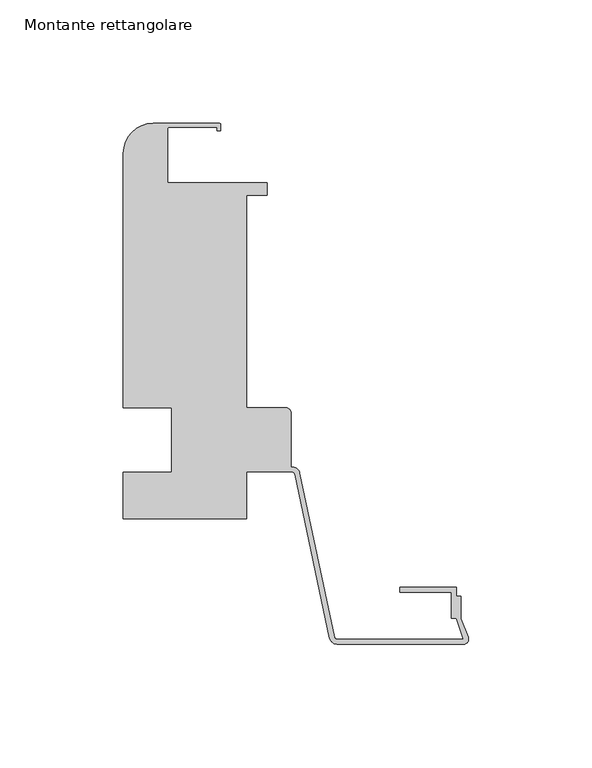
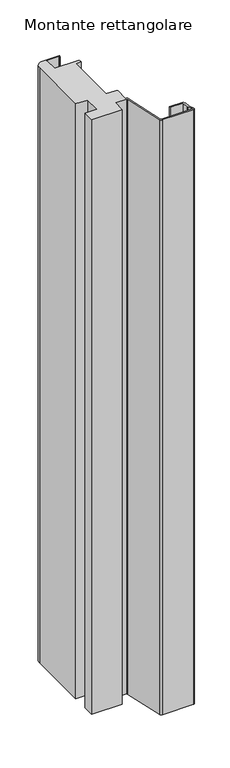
"""IFC4 building model written with IfcOpenShell, lengths in millimetres: member geometry, Montante rettangolare : Aluk_SL50_Attacco base."""

import ifcopenshell
import ifcopenshell.guid

model = None  # the IFC model being written
_history = None  # IfcOwnerHistory: only IFC2X3 demands one
_inside = {}  # id of a spatial element -> (the spatial element, [elements in it])
_under = {}  # id of a project, library or spatial element -> (it, [spatial elements below it])
_declared = {}  # id of a project -> (the project, [libraries it declares])
_typed = {}  # id of a type object -> (the type object, [elements of that type])
_made_of = {}  # id of a material, layer set ... -> (it, [elements and type objects made of it])


def new_model(schema):
    """Start an empty IFC model of exactly this schema.

    Asked for "IFC4X3", IfcOpenShell would pick the latest addendum, in which some entities
    have other attributes; the version numbers below select the first issue.
    IFC2X3 requires an IfcOwnerHistory on every rooted entity: one is made here for all.
    """
    global model, _history
    if schema == "IFC4X3":
        model = ifcopenshell.file(schema_version=(4, 3, 0, 0))
    else:
        model = ifcopenshell.file(schema=schema)
    _inside.clear()
    _under.clear()
    _declared.clear()
    _typed.clear()
    _made_of.clear()
    _history = None
    if model.schema == "IFC2X3":
        org = make("IfcOrganization", Name="unknown")
        user = make(
            "IfcPersonAndOrganization",
            ThePerson=make("IfcPerson", FamilyName="unknown"),
            TheOrganization=org,
        )
        app = make(
            "IfcApplication",
            ApplicationDeveloper=org,
            Version="unknown",
            ApplicationFullName="unknown",
            ApplicationIdentifier="unknown",
        )
        _history = make(
            "IfcOwnerHistory",
            OwningUser=user,
            OwningApplication=app,
            ChangeAction="ADDED",
            CreationDate=0,
        )
    return model


def make(cls, **values):
    """One entity of the class cls with the attributes given. An attribute that is None is left unset."""
    return model.create_entity(
        cls, **{name: value for name, value in values.items() if value is not None}
    )


def rooted(cls, **values):
    """An entity with a GlobalId (a new one), such as an element, a storey or a relation."""
    return make(cls, GlobalId=ifcopenshell.guid.new(), OwnerHistory=_history, **values)


def si_unit(unit_type, name, prefix=None):
    """IfcSIUnit, for example si_unit("LENGTHUNIT", "METRE", prefix="MILLI")."""
    return make("IfcSIUnit", UnitType=unit_type, Prefix=prefix, Name=name)


def assignment(units):
    """IfcUnitAssignment: the units of a project."""
    return None if units is None else make("IfcUnitAssignment", Units=units)


def point(xyz):
    """IfcCartesianPoint."""
    return None if xyz is None else make("IfcCartesianPoint", Coordinates=xyz)


def direction(xyz):
    """IfcDirection."""
    return None if xyz is None else make("IfcDirection", DirectionRatios=xyz)


def frame(location, z_axis=None, x_axis=None):
    """IfcAxis2Placement3D, a coordinate frame: its origin and axes. An axis left out is left unset."""
    return make(
        "IfcAxis2Placement3D",
        Location=point(location),
        Axis=direction(z_axis),
        RefDirection=direction(x_axis),
    )


def frame_2d(location, x_axis=None):
    """IfcAxis2Placement2D, a coordinate frame in the plane: its origin and x axis."""
    return make(
        "IfcAxis2Placement2D", Location=point(location), RefDirection=direction(x_axis)
    )


def origin():
    """The frame at (0, 0, 0) with its axes left unset."""
    return frame((0.0, 0.0, 0.0))


def place(relative_to, where):
    """IfcLocalPlacement: puts the frame where relative to a parent placement (None: the world)."""
    return make(
        "IfcLocalPlacement", PlacementRelTo=relative_to, RelativePlacement=where
    )


def context(
    kind, dimensions, precision=None, world=None, true_north=None, identifier=None
):
    """IfcGeometricRepresentationContext, for example the 3D "Model" context."""
    return make(
        "IfcGeometricRepresentationContext",
        ContextIdentifier=identifier,
        ContextType=kind,
        CoordinateSpaceDimension=dimensions,
        Precision=precision,
        WorldCoordinateSystem=world,
        TrueNorth=true_north,
    )


def project(units=None, contexts=None):
    """IfcProject with its units and contexts."""
    return rooted(
        "IfcProject",
        Name="project",
        RepresentationContexts=contexts,
        UnitsInContext=assignment(units),
    )


def spatial(cls, under=None, at=None, **own):
    """A site, building, storey or space (cls), placed at a placement, below another one or the project."""
    s = rooted(cls, ObjectPlacement=at, **own)
    if under is not None:
        _under.setdefault(under.id(), (under, []))[1].append(s)
    return s


def polyline(points):
    """IfcPolyline through the points."""
    return make("IfcPolyline", Points=[point(p) for p in points])


def circle_curve(where, radius):
    """IfcCircle in the frame where."""
    return make("IfcCircle", Position=where, Radius=radius)


def trimmed(basis, trim1, trim2, sense, master):
    """IfcTrimmedCurve: the piece of a basis curve between two trims."""
    return make(
        "IfcTrimmedCurve",
        BasisCurve=basis,
        Trim1=trim1,
        Trim2=trim2,
        SenseAgreement=sense,
        MasterRepresentation=master,
    )


def segment(curve, same_sense, transition):
    """IfcCompositeCurveSegment."""
    return make(
        "IfcCompositeCurveSegment",
        Transition=transition,
        SameSense=same_sense,
        ParentCurve=curve,
    )


def composite_curve(segments, self_intersect=None):
    """IfcCompositeCurve: segments joined end to end."""
    return make("IfcCompositeCurve", Segments=segments, SelfIntersect=self_intersect)


def outline(outer, holes=None, kind="AREA"):
    """IfcArbitraryClosedProfileDef: a profile drawn as a closed curve; with holes, ...WithVoids."""
    if holes is None:
        return make("IfcArbitraryClosedProfileDef", ProfileType=kind, OuterCurve=outer)
    return make(
        "IfcArbitraryProfileDefWithVoids",
        ProfileType=kind,
        OuterCurve=outer,
        InnerCurves=holes,
    )


def extrude(swept, where, along, depth):
    """IfcExtrudedAreaSolid: the profile swept, set in the frame where, extruded along a direction by depth."""
    return make(
        "IfcExtrudedAreaSolid",
        SweptArea=swept,
        Position=where,
        ExtrudedDirection=direction(along),
        Depth=depth,
    )


def shape(context_of_items, identifier, shape_type, items):
    """IfcShapeRepresentation: the items that make up one representation, for example the "Body"."""
    return make(
        "IfcShapeRepresentation",
        ContextOfItems=context_of_items,
        RepresentationIdentifier=identifier,
        RepresentationType=shape_type,
        Items=items,
    )


def source(mapping_origin, context_of_items, identifier, shape_type, items):
    """IfcRepresentationMap: a shape defined once, which mapped items show again and again."""
    return make(
        "IfcRepresentationMap",
        MappingOrigin=mapping_origin,
        MappedRepresentation=shape(context_of_items, identifier, shape_type, items),
    )


def transform(
    local_origin,
    x_axis=None,
    y_axis=None,
    z_axis=None,
    scale=None,
    scale2=None,
    scale3=None,
    uniform=True,
):
    """IfcCartesianTransformationOperator3D, or its non-uniform kind. x_axis, y_axis, z_axis: its Axis1, 2, 3."""
    if uniform:
        return make(
            "IfcCartesianTransformationOperator3D",
            Axis1=direction(x_axis),
            Axis2=direction(y_axis),
            LocalOrigin=point(local_origin),
            Scale=scale,
            Axis3=direction(z_axis),
        )
    return make(
        "IfcCartesianTransformationOperator3DnonUniform",
        Axis1=direction(x_axis),
        Axis2=direction(y_axis),
        LocalOrigin=point(local_origin),
        Scale=scale,
        Axis3=direction(z_axis),
        Scale2=scale2,
        Scale3=scale3,
    )


def mapped(mapping_source, mapping_target):
    """IfcMappedItem: shows the shape of a source again, moved by a transform."""
    return make(
        "IfcMappedItem", MappingSource=mapping_source, MappingTarget=mapping_target
    )


def made_of(thing, what):
    """Note that an element or type object is made of a material, layer set ...; save() writes the relation."""
    if what is not None:
        _made_of.setdefault(what.id(), (what, []))[1].append(thing)
    return thing


def element(
    cls,
    number,
    at=None,
    inside=None,
    cuts=None,
    type_object=None,
    material=None,
    context=None,
    identifier="Body",
    shape_type=None,
    held_by="IfcProductDefinitionShape",
    body=None,
    shapes=None,
    **own,
):
    """One element of the class cls, such as IfcWall. Its Tag is "e" and its number.

    at: its placement. inside: the storey or other place that contains it. cuts: it is an
    opening in that element (IfcRelVoidsElement). A single representation is given by context,
    identifier, shape_type and body (its items); several are given by shapes. held_by: the class
    of the entity that holds the representations. save() writes the other relations.
    """
    e = rooted(cls, Tag="e%d" % number, ObjectPlacement=at, **own)
    if body is not None:
        shapes = [shape(context, identifier, shape_type, body)]
    if shapes is not None:
        e.Representation = make(held_by, Representations=shapes)
    if inside is not None:
        _inside.setdefault(inside.id(), (inside, []))[1].append(e)
    if cuts is not None:
        rooted(
            "IfcRelVoidsElement", RelatingBuildingElement=cuts, RelatedOpeningElement=e
        )
    if type_object is not None:
        _typed.setdefault(type_object.id(), (type_object, []))[1].append(e)
    return made_of(e, material)


def aggregate(whole, parts):
    """IfcRelAggregates: a whole, such as a stair, and the parts it consists of."""
    return rooted("IfcRelAggregates", RelatingObject=whole, RelatedObjects=parts)


def save(model, path):
    """Write the relations noted so far, then the file.

    IfcRelAggregates (storeys below a building ...), IfcRelContainedInSpatialStructure (elements
    in a storey), IfcRelDefinesByType, IfcRelAssociatesMaterial and IfcRelDeclares: one each for
    every whole, place, type object, material and project.
    """
    for whole, parts in _under.values():
        aggregate(whole, parts)
    for where, things in _inside.values():
        rooted(
            "IfcRelContainedInSpatialStructure",
            RelatedElements=things,
            RelatingStructure=where,
        )
    for kind, things in _typed.values():
        rooted("IfcRelDefinesByType", RelatedObjects=things, RelatingType=kind)
    for what, things in _made_of.values():
        rooted("IfcRelAssociatesMaterial", RelatedObjects=things, RelatingMaterial=what)
    for by, libraries in _declared.values():
        rooted("IfcRelDeclares", RelatingContext=by, RelatedDefinitions=libraries)
    model.write(path)


def montante_rettangolare_314e894a(model_context):
    return source(origin(), model_context, "Body", "SweptSolid", [
        extrude(outline(composite_curve([segment(trimmed(circle_curve(frame_2d((-74.0493909, 14.402221)), 2.0), [point((-74.0493909, 16.402221))], [point((-72.0493909, 14.402221))], False, "CARTESIAN"), True, "CONTINUOUS"), segment(polyline([(-72.0493909, 14.402221), (-72.0493909, -7.6609857)]), True, "CONTINUOUS"), segment(trimmed(circle_curve(frame_2d((-71.4368184, -10.597779)), 3.0), [point((-72.0493909, -7.6609857))], [point((-68.4823952, -10.0768345))], False, "CARTESIAN"), True, "CONTINUOUS"), segment(polyline([(-68.4823952, -10.0768345), (-54.3491051, -76.5137179)]), True, "CONTINUOUS"), segment(trimmed(circle_curve(frame_2d((-53.3642974, -76.3400697)), 1.0), [point((-54.3491051, -76.5137179))], [point((-53.3642974, -77.3400697))], True, "CARTESIAN"), True, "CONTINUOUS"), segment(polyline([(-53.3642974, -77.3400697), (-2.0383191, -77.3400697), (-5.0594239, -68.9258721), (-7.0420396, -68.9258721), (-7.0420396, -58.2291236), (-27.9257793, -58.2291236), (-27.9257793, -56.2291236), (-5.0420396, -56.2291236), (-5.0420396, -59.9742897), (-3.1963467, -59.9742897), (-3.1963467, -68.9742897), (-0.1433912, -76.5964275)]), True, "CONTINUOUS"), segment(trimmed(circle_curve(frame_2d((-2.0, -77.3400697)), 2.0), [point((-0.1433912, -76.5964275))], [point((-2.0, -79.3400697))], False, "CARTESIAN"), True, "CONTINUOUS"), segment(polyline([(-2.0, -79.3400697), (-53.3642974, -79.3400697)]), True, "CONTINUOUS"), segment(trimmed(circle_curve(frame_2d((-53.3642974, -76.3400697)), 3.0), [point((-53.3642974, -79.3400697))], [point((-56.3187206, -76.8610143))], False, "CARTESIAN"), True, "CONTINUOUS"), segment(polyline([(-56.3187206, -76.8610143), (-70.4520107, -10.4241309)]), True, "CONTINUOUS"), segment(trimmed(circle_curve(frame_2d((-71.4368184, -10.597779)), 1.0), [point((-70.4520107, -10.4241309))], [point((-71.4368184, -9.597779))], True, "CARTESIAN"), True, "CONTINUOUS"), segment(polyline([(-71.4368184, -9.597779), (-89.9797056, -9.597779), (-89.9797056, -28.5948782), (-139.9938184, -28.5948782), (-139.9938184, -9.6334956), (-120.4798846, -9.6334956), (-120.4798846, 16.4), (-139.9798846, 16.4), (-139.9798846, 119.6)]), True, "CONTINUOUS"), segment(trimmed(circle_curve(frame_2d((-127.9798846, 119.6)), 12.0), [point((-139.9798846, 119.6))], [point((-127.9798846, 131.6))], False, "CARTESIAN"), True, "CONTINUOUS"), segment(polyline([(-127.9798846, 131.6), (-100.9798846, 131.6)]), True, "CONTINUOUS"), segment(trimmed(circle_curve(frame_2d((-100.9798846, 131.1)), 0.5), [point((-100.9798846, 131.6))], [point((-100.4798846, 131.1))], False, "CARTESIAN"), True, "CONTINUOUS"), segment(polyline([(-100.4798846, 131.1), (-100.4798846, 128.6), (-101.9798846, 128.6), (-101.9798846, 130.1), (-121.4798846, 130.1)]), True, "CONTINUOUS"), segment(trimmed(circle_curve(frame_2d((-121.4798846, 129.6)), 0.5), [point((-121.4798846, 130.1))], [point((-121.9798846, 129.6))], True, "CARTESIAN"), True, "CONTINUOUS"), segment(polyline([(-121.9798846, 129.6), (-121.9798846, 107.6), (-81.6473418, 107.6), (-81.6473418, 102.6), (-89.9798846, 102.6), (-89.9798846, 16.402221), (-74.0493909, 16.402221)]), True, "CONTINUOUS")], self_intersect=False)), frame((0.0, 0.0, -1030.1428571), z_axis=(0.0, 0.0, 1.0), x_axis=(1.0, 0.0, 0.0)), (0.0, 0.0, 1.0), 1030.1428571),
    ])


if __name__ == "__main__":
    model = new_model("IFC4")
    model_context = context("Model", 3, world=origin())
    ifc_project = project(units=[si_unit("LENGTHUNIT", "METRE", prefix="MILLI")], contexts=[model_context])
    site = spatial("IfcSite", under=ifc_project)
    building = spatial("IfcBuilding", under=site)
    placement = place(None, origin())
    montante_rettangolare_shape = montante_rettangolare_314e894a(model_context)
    element("IfcMember", 1, ObjectType="Montante rettangolare : Aluk_SL50_Attacco base", at=placement, inside=building, context=model_context, shape_type="MappedRepresentation", body=[
        mapped(montante_rettangolare_shape, transform((0.0, 0.0, 0.0), x_axis=(1.0, 0.0, 0.0), y_axis=(0.0, 1.0, 0.0), z_axis=(0.0, 0.0, 1.0))),
    ])
    save(model, "model.ifc")
